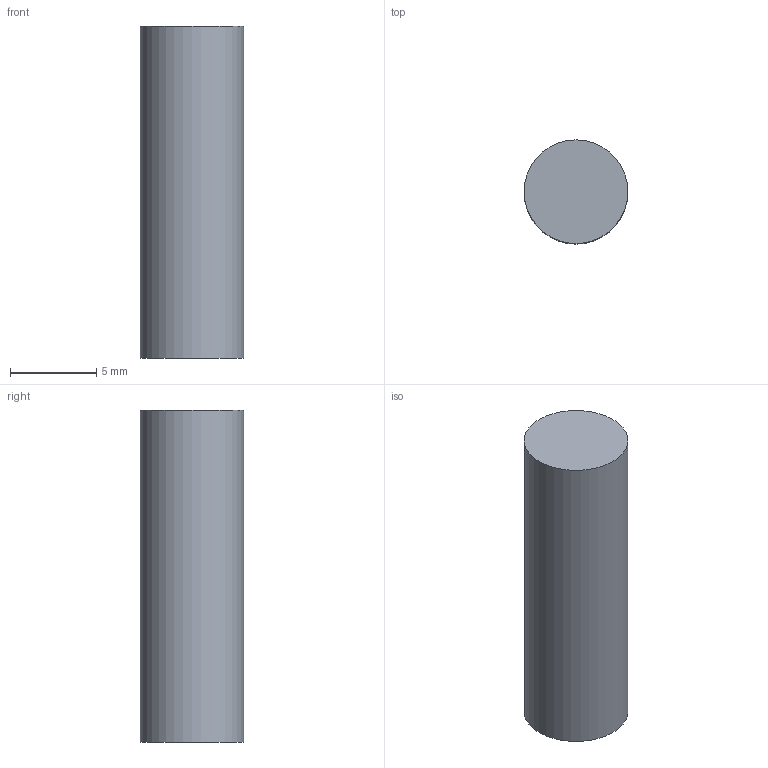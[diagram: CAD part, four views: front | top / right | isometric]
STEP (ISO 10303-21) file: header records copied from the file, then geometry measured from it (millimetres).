
FILE_DESCRIPTION(('Open CASCADE Model'),'2;1');
FILE_NAME('Open CASCADE Shape Model','2026-07-29T21:54:41',('Author'),( 'Open CASCADE'),'Open CASCADE STEP processor 7.9','Open CASCADE 7.9' ,'Unknown');
FILE_SCHEMA(('AUTOMOTIVE_DESIGN { 1 0 10303 214 1 1 1 1 }'));
Length unit declared in the file: millimetre
Products named in the file (1): split_v2_printable_alignment_pin
Bounding box: 6 x 6 x 19.2 mm (x, y, z)
Volume: 542.9 mm3; surface area: 418.5 mm2
Topology: 1 solids, 1 shells, 3 faces, 3 edges, 2 vertices
Faces by surface type: plane 2, cylinder 1
Full cylindrical faces by diameter (mm): 6 x1
Entity records: 133 total; most frequent: DIRECTION 19, CARTESIAN_POINT 15, AXIS2_PLACEMENT_3D 6, ORIENTED_EDGE 6, PCURVE 6, DEFINITIONAL_REPRESENTATION 6, LINE 5, VECTOR 5
